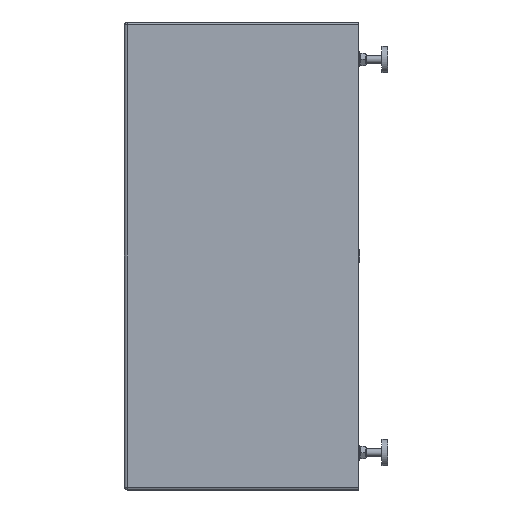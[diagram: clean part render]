
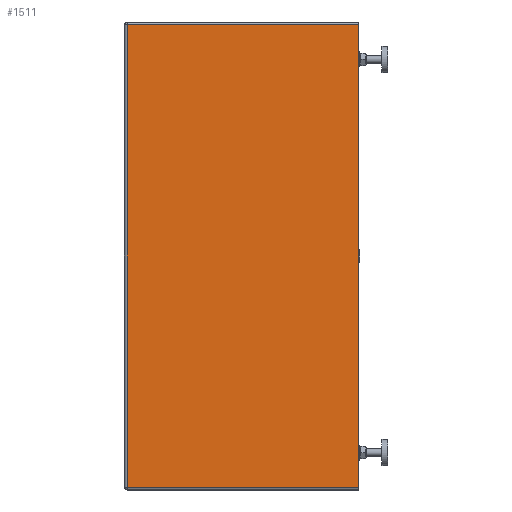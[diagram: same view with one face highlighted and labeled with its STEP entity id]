
A CAD part, left-side view. The second image highlights one B-rep face of the part: STEP entity #1511.
In plain terms, the highlighted planar face has unit normal (-1, 0, 0).
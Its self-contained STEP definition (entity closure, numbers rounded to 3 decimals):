
#148=PLANE('',#1754);
#249=FACE_OUTER_BOUND('',#345,.T.);
#345=EDGE_LOOP('',(#1186,#1187,#1188,#1189));
#436=LINE('',#2437,#551);
#443=LINE('',#2467,#558);
#447=LINE('',#2473,#562);
#452=LINE('',#2482,#567);
#551=VECTOR('',#1950,10.);
#558=VECTOR('',#1983,10.);
#562=VECTOR('',#1991,10.);
#567=VECTOR('',#2004,10.);
#752=VERTEX_POINT('',#2430);
#754=VERTEX_POINT('',#2435);
#760=VERTEX_POINT('',#2456);
#763=VERTEX_POINT('',#2463);
#894=EDGE_CURVE('',#754,#752,#436,.T.);
#909=EDGE_CURVE('',#760,#763,#443,.T.);
#913=EDGE_CURVE('',#752,#760,#447,.T.);
#918=EDGE_CURVE('',#754,#763,#452,.T.);
#1186=ORIENTED_EDGE('',*,*,#894,.F.);
#1187=ORIENTED_EDGE('',*,*,#918,.T.);
#1188=ORIENTED_EDGE('',*,*,#909,.F.);
#1189=ORIENTED_EDGE('',*,*,#913,.F.);
#1511=ADVANCED_FACE('',(#249),#148,.T.);
#1754=AXIS2_PLACEMENT_3D('',#2510,#2030,#2031);
#1950=DIRECTION('',(0.,1.,0.));
#1983=DIRECTION('',(0.,-1.,0.));
#1991=DIRECTION('',(0.,0.,1.));
#2004=DIRECTION('',(0.,0.,1.));
#2030=DIRECTION('center_axis',(-1.,0.,0.));
#2031=DIRECTION('ref_axis',(0.,0.,1.));
#2430=CARTESIAN_POINT('',(-501.,247.,-247.));
#2435=CARTESIAN_POINT('',(-501.,0.,-247.));
#2437=CARTESIAN_POINT('',(-501.,0.,-247.));
#2456=CARTESIAN_POINT('',(-501.,247.,247.));
#2463=CARTESIAN_POINT('',(-501.,0.,247.));
#2467=CARTESIAN_POINT('',(-501.,0.,247.));
#2473=CARTESIAN_POINT('',(-501.,247.,-125.));
#2482=CARTESIAN_POINT('',(-501.,0.,-250.));
#2510=CARTESIAN_POINT('Origin',(-501.,0.,-250.));
